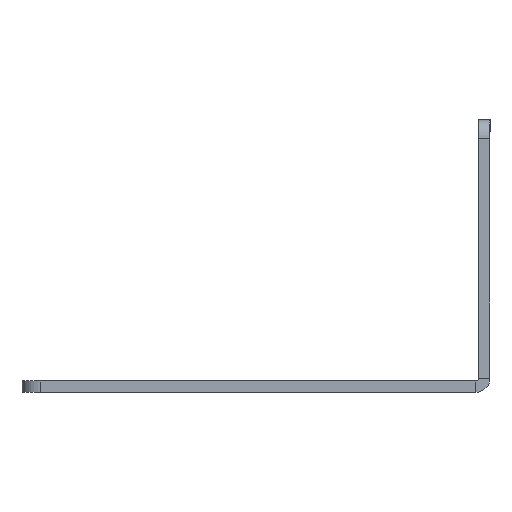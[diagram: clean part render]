
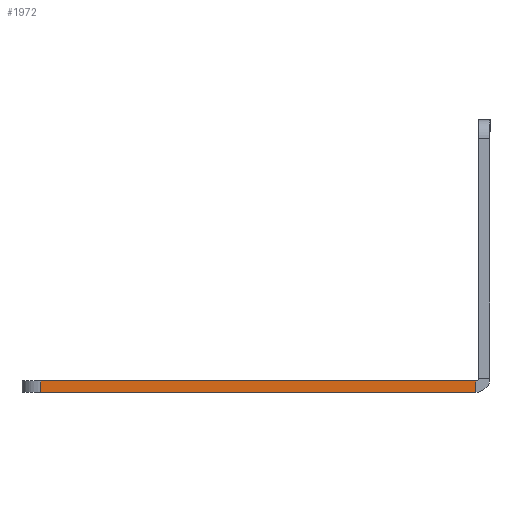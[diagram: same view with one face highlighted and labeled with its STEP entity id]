
A CAD part, left-side view. The second image highlights one B-rep face of the part: STEP entity #1972.
In plain terms, the highlighted planar face has unit normal (-1, 0, 0).
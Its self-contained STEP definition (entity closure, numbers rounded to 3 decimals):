
#23 = DIRECTION ( 'NONE',  ( -1., 0., 0. ) ) ;
#121 = EDGE_CURVE ( 'NONE', #1179, #1403, #512, .T. ) ;
#206 = VECTOR ( 'NONE', #574, 1000. ) ;
#212 = CARTESIAN_POINT ( 'NONE',  ( 0., 0., 0. ) ) ;
#354 = CARTESIAN_POINT ( 'NONE',  ( 0., 119.5, 0. ) ) ;
#394 = VERTEX_POINT ( 'NONE', #479 ) ;
#474 = CARTESIAN_POINT ( 'NONE',  ( 0., 0., -3. ) ) ;
#479 = CARTESIAN_POINT ( 'NONE',  ( 0., 119.5, -3. ) ) ;
#512 = LINE ( 'NONE', #212, #904 ) ;
#523 = DIRECTION ( 'NONE',  ( 0., -1., 0. ) ) ;
#566 = LINE ( 'NONE', #869, #206 ) ;
#574 = DIRECTION ( 'NONE',  ( 0., 0., -1. ) ) ;
#592 = ORIENTED_EDGE ( 'NONE', *, *, #605, .T. ) ;
#605 = EDGE_CURVE ( 'NONE', #394, #1059, #1554, .T. ) ;
#698 = ORIENTED_EDGE ( 'NONE', *, *, #806, .F. ) ;
#806 = EDGE_CURVE ( 'NONE', #1403, #1059, #1138, .T. ) ;
#869 = CARTESIAN_POINT ( 'NONE',  ( 0., 119.5, -3. ) ) ;
#904 = VECTOR ( 'NONE', #523, 1000. ) ;
#947 = CARTESIAN_POINT ( 'NONE',  ( 0., 3.737, -3. ) ) ;
#948 = AXIS2_PLACEMENT_3D ( 'NONE', #474, #23, #1262 ) ;
#971 = VECTOR ( 'NONE', #1249, 1000. ) ;
#1024 = CARTESIAN_POINT ( 'NONE',  ( 0., 3.737, 0. ) ) ;
#1059 = VERTEX_POINT ( 'NONE', #947 ) ;
#1100 = CARTESIAN_POINT ( 'NONE',  ( 0., 0., -3. ) ) ;
#1138 = LINE ( 'NONE', #1755, #1905 ) ;
#1142 = ORIENTED_EDGE ( 'NONE', *, *, #1767, .T. ) ;
#1179 = VERTEX_POINT ( 'NONE', #354 ) ;
#1249 = DIRECTION ( 'NONE',  ( 0., -1., 0. ) ) ;
#1252 = PLANE ( 'NONE',  #948 ) ;
#1262 = DIRECTION ( 'NONE',  ( 0., 0., 1. ) ) ;
#1391 = FACE_OUTER_BOUND ( 'NONE', #1665, .T. ) ;
#1403 = VERTEX_POINT ( 'NONE', #1024 ) ;
#1554 = LINE ( 'NONE', #1100, #971 ) ;
#1579 = ORIENTED_EDGE ( 'NONE', *, *, #121, .F. ) ;
#1613 = DIRECTION ( 'NONE',  ( 0., 0., -1. ) ) ;
#1665 = EDGE_LOOP ( 'NONE', ( #1579, #1142, #592, #698 ) ) ;
#1755 = CARTESIAN_POINT ( 'NONE',  ( 0., 3.737, 0. ) ) ;
#1767 = EDGE_CURVE ( 'NONE', #1179, #394, #566, .T. ) ;
#1905 = VECTOR ( 'NONE', #1613, 1000. ) ;
#1972 = ADVANCED_FACE ( 'NONE', ( #1391 ), #1252, .T. ) ;
